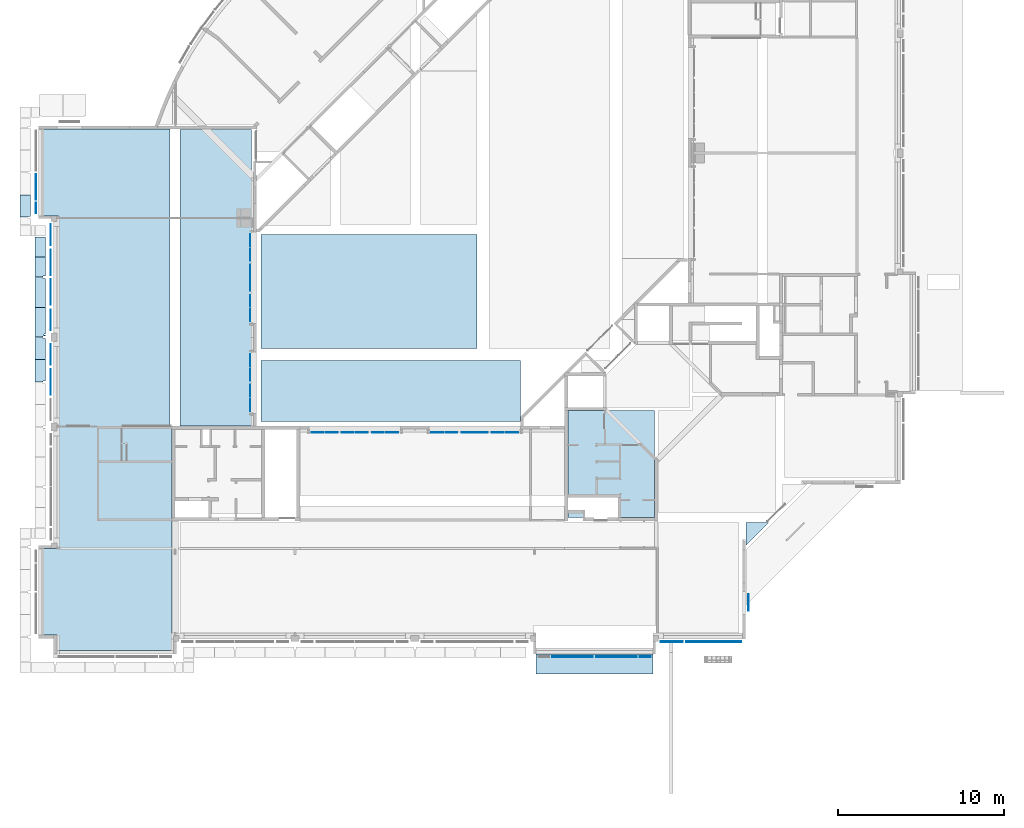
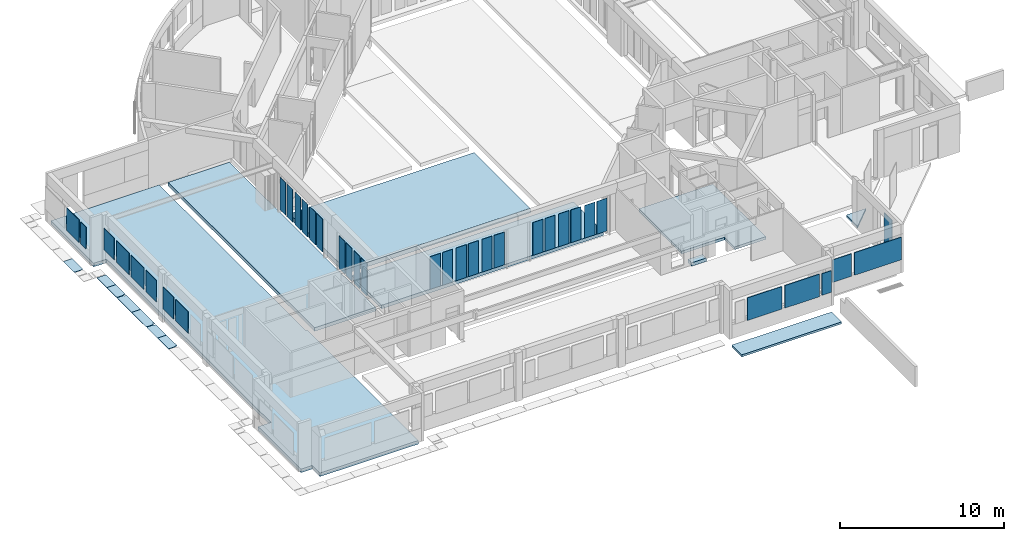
# One storey, part 6 of 30: 36 plates, 15 slabs.
"""IFC4X3_ADD2 building model written with IfcOpenShell, lengths in millimetres."""

from ifc_helpers import new_model, si_unit, direction, frame, frame_2d, origin_with_axes, origin_2d_with_axis, place, context, subcontext, project, spatial, polyline, rectangle, outline, extrude, source, transform, mapped, material, type_object, element, save


model = new_model("IFC4X3_ADD2")

# Units and contexts
model_context = context("Model", 3, precision=1e-05, world=origin_with_axes(), true_north=direction((0.0, 1.0)))
body_context = subcontext(model_context, "Body", "Model", "MODEL_VIEW")
ifc_project = project(units=[si_unit("LENGTHUNIT", "METRE", prefix="MILLI"), si_unit("AREAUNIT", "SQUARE_METRE"), si_unit("VOLUMEUNIT", "CUBIC_METRE"), si_unit("PLANEANGLEUNIT", "RADIAN"), si_unit("TIMEUNIT", "SECOND"), si_unit("MASSUNIT", "GRAM")], contexts=[model_context])

# Site, building, storey
site_placement = place(None, origin_with_axes())
site = spatial("IfcSite", under=ifc_project, at=site_placement, Name="Site", CompositionType="ELEMENT")
building_placement = place(site_placement, origin_with_axes())
building = spatial("IfcBuilding", under=site, at=building_placement, Name="IFC Building Story")
storey_placement = place(building_placement, origin_with_axes())
storey = spatial("IfcBuildingStorey", under=building, at=storey_placement, Name="000", Elevation=0.0)

# Slab
ifc_material_1 = material(Name="BB_Beton_Bestaand")
slab_type_1 = type_object("IfcSlabType", Name="BB_Beton_Bestaand 200", PredefinedType="FLOOR", material=ifc_material_1)
slab_1_placement = place(storey_placement, frame((-19899.99999999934, 13624.99999999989, -280.0), z_axis=(0.0, 0.0, 1.0), x_axis=(0.0, -1.0, 0.0)))
element("IfcSlab", 1, at=slab_1_placement, inside=storey, type_object=slab_type_1, Name="Floor:BB_XX_Vloer uit beton, 200 mm", ObjectType="Floor:BB_XX_Vloer uit beton, 200 mm", PredefinedType="FLOOR", context=body_context, shape_type="SweptSolid", body=[
    extrude(outline(polyline([(2545.000000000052, 270.0000000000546), (1334.999999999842, 270.0000000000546), (1334.999999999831, -2739.999999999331), (-3879.999999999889, -2739.999999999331), (-3879.999999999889, 2469.999999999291), (2545.000000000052, 2469.999999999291), (2545.000000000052, 270.0000000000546)])), frame((3879.999999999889, 2739.999999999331, 0.0), z_axis=(0.0, 0.0, 1.0), x_axis=(1.0, 0.0, 0.0)), (0.0, 0.0, 1.0), 200.0),
])

# Plates
ifc_material_2 = material(Name="BB_Glas")
shared_shape_1 = source(origin_with_axes(), body_context, "Body", "SweptSolid", [
    extrude(rectangle(XDim=1602.000000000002, YDim=652.000000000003, at=frame_2d((0.0, 0.0), x_axis=(0.0, 1.0))), frame((0.0, 0.0, -44.0), z_axis=(0.0, 0.0, 1.0), x_axis=(1.0, 0.0, 0.0)), (0.0, 0.0, 1.0), 44.0),
])
plate_1_placement = place(storey_placement, frame((-15264.0, -1187.50000000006, 1765.0), z_axis=(0.0, -1.0, 0.0), x_axis=(1.0, 0.0, 0.0)))
element("IfcPlate", 2, at=plate_1_placement, inside=storey, material=ifc_material_2, Name="BB_07.06_Buitenbeglazing, rechthoekig_GMO:07.06.72#02_Drievoudige beglazing, 44 mm, A/A*/P4A RC2, -1 en +0", ObjectType="BB_07.06_Buitenbeglazing, rechthoekig_GMO:07.06.72#02_Drievoudige beglazing, 44 mm, A/A*/P4A RC2, -1 en +0", PredefinedType="USERDEFINED", context=body_context, shape_type="MappedRepresentation", body=[
    mapped(shared_shape_1, transform((0.0, 0.0, 0.0))),
])
shared_shape_2 = source(origin_with_axes(), body_context, "Body", "SweptSolid", [
    extrude(rectangle(XDim=2432.0, YDim=1680.000000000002, at=origin_2d_with_axis()), frame((0.0, 0.0, -44.0), z_axis=(0.0, 0.0, 1.0), x_axis=(1.0, 0.0, 0.0)), (0.0, 0.0, 1.0), 44.0),
])
for number, where, z_axis, x_axis in (
    (3, (-19616.0, -1187.50000000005, 1765.0), (0.0, -1.0, 0.0), (1.0, 0.0, 0.0)),
    (4, (-16984.0, -1187.50000000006, 1765.0), (0.0, -1.0, 0.0), (1.0, 0.0, 0.0)),
):
    element("IfcPlate", number, at=place(storey_placement, frame(where, z_axis=z_axis, x_axis=x_axis)), inside=storey, material=ifc_material_2, Name="BB_07.06_Buitenbeglazing, rechthoekig_GMO:07.06.72#02_Drievoudige beglazing, 44 mm, A/A*/P4A RC2, -1 en +0", ObjectType="BB_07.06_Buitenbeglazing, rechthoekig_GMO:07.06.72#02_Drievoudige beglazing, 44 mm, A/A*/P4A RC2, -1 en +0", PredefinedType="USERDEFINED", context=body_context, shape_type="MappedRepresentation", body=[
        mapped(shared_shape_2, transform((0.0, 0.0, 0.0))),
    ])
shared_shape_3 = source(origin_with_axes(), body_context, "Body", "SweptSolid", [
    extrude(rectangle(XDim=1602.000000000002, YDim=652.0000000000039, at=frame_2d((0.0, 0.0), x_axis=(0.0, 1.0))), frame((0.0, 0.0, -44.0), z_axis=(0.0, 0.0, 1.0), x_axis=(1.0, 0.0, 0.0)), (0.0, 0.0, 1.0), 44.0),
])
plate_2_placement = place(storey_placement, frame((-51887.5000000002, 25794.0, 1765.0), z_axis=(-1.0, 0.0, 0.0), x_axis=(0.0, 1.0, 0.0)))
element("IfcPlate", 5, at=plate_2_placement, inside=storey, material=ifc_material_2, Name="BB_07.06_Buitenbeglazing, rechthoekig_GMO:07.06.72#02_Drievoudige beglazing, 44 mm, A/A*/P4A RC2, -1 en +0", ObjectType="BB_07.06_Buitenbeglazing, rechthoekig_GMO:07.06.72#02_Drievoudige beglazing, 44 mm, A/A*/P4A RC2, -1 en +0", PredefinedType="USERDEFINED", context=body_context, shape_type="MappedRepresentation", body=[
    mapped(shared_shape_3, transform((0.0, 0.0, 0.0))),
])
shared_shape_4 = source(origin_with_axes(), body_context, "Body", "SweptSolid", [
    extrude(rectangle(XDim=1680.000000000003, YDim=1532.000000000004, at=frame_2d((0.0, 0.0), x_axis=(0.0, 1.0))), frame((0.0, 0.0, -44.0), z_axis=(0.0, 0.0, 1.0), x_axis=(1.0, 0.0, 0.0)), (0.0, 0.0, 1.0), 44.0),
])
plate_3_placement = place(storey_placement, frame((-51887.5000000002, 27064.0, 1765.0), z_axis=(-1.0, 0.0, 0.0), x_axis=(0.0, 1.0, 0.0)))
element("IfcPlate", 6, at=plate_3_placement, inside=storey, material=ifc_material_2, Name="BB_07.06_Buitenbeglazing, rechthoekig_GMO:07.06.72#02_Drievoudige beglazing, 44 mm, A/A*/P4A RC2, -1 en +0", ObjectType="BB_07.06_Buitenbeglazing, rechthoekig_GMO:07.06.72#02_Drievoudige beglazing, 44 mm, A/A*/P4A RC2, -1 en +0", PredefinedType="USERDEFINED", context=body_context, shape_type="MappedRepresentation", body=[
    mapped(shared_shape_4, transform((0.0, 0.0, 0.0))),
])
shared_shape_5 = source(origin_with_axes(), body_context, "Body", "SweptSolid", [
    extrude(rectangle(XDim=1680.000000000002, YDim=1332.600000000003, at=frame_2d((0.0, 0.0), x_axis=(0.0, 1.0))), frame((0.0, 0.0, -44.0), z_axis=(0.0, 0.0, 1.0), x_axis=(1.0, 0.0, 0.0)), (0.0, 0.0, 1.0), 44.0),
])
plate_4_placement = place(storey_placement, frame((-13663.2000000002, -287.499999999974, 1765.0), z_axis=(0.0, -1.0, 0.0), x_axis=(1.0, 0.0, 0.0)))
element("IfcPlate", 7, at=plate_4_placement, inside=storey, material=ifc_material_2, Name="BB_07.06_Buitenbeglazing, rechthoekig_GMO:07.06.72#02_Drievoudige beglazing, 44 mm, A/A*/P4A RC2, -1 en +0", ObjectType="BB_07.06_Buitenbeglazing, rechthoekig_GMO:07.06.72#02_Drievoudige beglazing, 44 mm, A/A*/P4A RC2, -1 en +0", PredefinedType="USERDEFINED", context=body_context, shape_type="MappedRepresentation", body=[
    mapped(shared_shape_5, transform((0.0, 0.0, 0.0))),
])
shared_shape_6 = source(origin_with_axes(), body_context, "Body", "SweptSolid", [
    extrude(rectangle(XDim=3306.4, YDim=1680.000000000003, at=origin_2d_with_axis()), frame((0.0, 0.0, -44.0), z_axis=(0.0, 0.0, 1.0), x_axis=(1.0, 0.0, 0.0)), (0.0, 0.0, 1.0), 44.0),
])
plate_5_placement = place(storey_placement, frame((-11143.7000000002, -287.499999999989, 1765.0), z_axis=(0.0, -1.0, 0.0), x_axis=(1.0, 0.0, 0.0)))
element("IfcPlate", 8, at=plate_5_placement, inside=storey, material=ifc_material_2, Name="BB_07.06_Buitenbeglazing, rechthoekig_GMO:07.06.72#02_Drievoudige beglazing, 44 mm, A/A*/P4A RC2, -1 en +0", ObjectType="BB_07.06_Buitenbeglazing, rechthoekig_GMO:07.06.72#02_Drievoudige beglazing, 44 mm, A/A*/P4A RC2, -1 en +0", PredefinedType="USERDEFINED", context=body_context, shape_type="MappedRepresentation", body=[
    mapped(shared_shape_6, transform((0.0, 0.0, 0.0))),
])
shared_shape_7 = source(origin_with_axes(), body_context, "Body", "SweptSolid", [
    extrude(rectangle(XDim=1602.000000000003, YDim=1242.000000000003, at=frame_2d((0.0, 0.0), x_axis=(0.0, 1.0))), frame((0.0, 0.0, -28.0), z_axis=(0.0, 0.0, 1.0), x_axis=(1.0, 0.0, 0.0)), (0.0, 0.0, 1.0), 28.0),
])
plate_6_placement = place(storey_placement, frame((-50987.4999999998, 16990.0, 1765.0), z_axis=(-1.0, 0.0, 0.0), x_axis=(0.0, -1.0, 0.0)))
element("IfcPlate", 9, at=plate_6_placement, inside=storey, material=ifc_material_2, Name="BB_07.06_Buitenbeglazing, rechthoekig_GMO:07.06.41#03_Dubbele beglazing RWA +0, 28 mm", ObjectType="BB_07.06_Buitenbeglazing, rechthoekig_GMO:07.06.41#03_Dubbele beglazing RWA +0, 28 mm", PredefinedType="USERDEFINED", context=body_context, shape_type="MappedRepresentation", body=[
    mapped(shared_shape_7, transform((0.0, 0.0, 0.0))),
])
shared_shape_8 = source(origin_with_axes(), body_context, "Body", "SweptSolid", [
    extrude(rectangle(XDim=1602.000000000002, YDim=1522.000000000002, at=frame_2d((0.0, 0.0), x_axis=(0.0, 1.0))), frame((0.0, 0.0, -28.0), z_axis=(0.0, 0.0, 1.0), x_axis=(1.0, 0.0, 0.0)), (0.0, 0.0, 1.0), 28.0),
])
plate_7_placement = place(storey_placement, frame((-50987.4999999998, 15330.0, 1765.0), z_axis=(-1.0, 0.0, 0.0), x_axis=(0.0, -1.0, 0.0)))
element("IfcPlate", 10, at=plate_7_placement, inside=storey, material=ifc_material_2, Name="BB_07.06_Buitenbeglazing, rechthoekig_GMO:07.06.41#03_Dubbele beglazing RWA +0, 28 mm", ObjectType="BB_07.06_Buitenbeglazing, rechthoekig_GMO:07.06.41#03_Dubbele beglazing RWA +0, 28 mm", PredefinedType="USERDEFINED", context=body_context, shape_type="MappedRepresentation", body=[
    mapped(shared_shape_8, transform((0.0, 0.0, 0.0))),
])
shared_shape_9 = source(origin_with_axes(), body_context, "Body", "SweptSolid", [
    extrude(rectangle(XDim=1602.000000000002, YDim=1244.000000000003, at=frame_2d((0.0, 0.0), x_axis=(0.0, 1.0))), frame((0.0, 0.0, -28.0), z_axis=(0.0, 0.0, 1.0), x_axis=(1.0, 0.0, 0.0)), (0.0, 0.0, 1.0), 28.0),
])
for number, where, z_axis, x_axis in (
    (11, (-50987.5000000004, 24190.0, 1765.0), (-1.0, 0.0, 0.0), (0.0, -1.0, 0.0)),
    (12, (-50987.5000000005, 19070.0, 1765.0), (-1.0, 0.0, 0.0), (0.0, -1.0, 0.0)),
):
    element("IfcPlate", number, at=place(storey_placement, frame(where, z_axis=z_axis, x_axis=x_axis)), inside=storey, material=ifc_material_2, Name="BB_07.06_Buitenbeglazing, rechthoekig_GMO:07.06.41#03_Dubbele beglazing RWA +0, 28 mm", ObjectType="BB_07.06_Buitenbeglazing, rechthoekig_GMO:07.06.41#03_Dubbele beglazing RWA +0, 28 mm", PredefinedType="USERDEFINED", context=body_context, shape_type="MappedRepresentation", body=[
        mapped(shared_shape_9, transform((0.0, 0.0, 0.0))),
    ])
shared_shape_10 = source(origin_with_axes(), body_context, "Body", "SweptSolid", [
    extrude(rectangle(XDim=1602.000000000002, YDim=1552.000000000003, at=frame_2d((0.0, 0.0), x_axis=(0.0, 1.0))), frame((0.0, 0.0, -28.0), z_axis=(0.0, 0.0, 1.0), x_axis=(1.0, 0.0, 0.0)), (0.0, 0.0, 1.0), 28.0),
])
for number, where, z_axis, x_axis in (
    (13, (-50987.5000000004, 22515.0, 1765.0), (-1.0, 0.0, 0.0), (0.0, -1.0, 0.0)),
    (14, (-50987.5000000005, 20745.0, 1765.0), (-1.0, 0.0, 0.0), (0.0, -1.0, 0.0)),
):
    element("IfcPlate", number, at=place(storey_placement, frame(where, z_axis=z_axis, x_axis=x_axis)), inside=storey, material=ifc_material_2, Name="BB_07.06_Buitenbeglazing, rechthoekig_GMO:07.06.41#03_Dubbele beglazing RWA +0, 28 mm", ObjectType="BB_07.06_Buitenbeglazing, rechthoekig_GMO:07.06.41#03_Dubbele beglazing RWA +0, 28 mm", PredefinedType="USERDEFINED", context=body_context, shape_type="MappedRepresentation", body=[
        mapped(shared_shape_10, transform((0.0, 0.0, 0.0))),
    ])
ifc_material_3 = material(Name="BB_Metaal_Aluminium_Buitenschrijnwerk")
shared_shape_11 = source(origin_with_axes(), body_context, "Body", "SweptSolid", [
    extrude(rectangle(XDim=2458.0, YDim=994.000000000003, at=frame_2d((0.0, 0.0), x_axis=(0.0, 1.0))), frame((0.0, 0.0, -44.0), z_axis=(0.0, 0.0, 1.0), x_axis=(1.0, 0.0, 0.0)), (0.0, 0.0, 1.0), 44.0),
])
plate_8_placement = place(storey_placement, frame((-9022.50000000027, 2085.0, 1321.0), z_axis=(1.0, 0.0, 0.0), x_axis=(0.0, -1.0, 0.0)))
element("IfcPlate", 15, at=plate_8_placement, inside=storey, material=ifc_material_3, Name="BB_07.06_Buitenbeglazing, rechthoekig_GMO:07.04.63#01_Vulpaneel, 44 mm", ObjectType="BB_07.06_Buitenbeglazing, rechthoekig_GMO:07.04.63#01_Vulpaneel, 44 mm", PredefinedType="USERDEFINED", context=body_context, shape_type="MappedRepresentation", body=[
    mapped(shared_shape_11, transform((0.0, 0.0, 0.0))),
])
shared_shape_12 = source(origin_with_axes(), body_context, "Body", "SweptSolid", [
    extrude(rectangle(XDim=2433.0, YDim=713.500000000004, at=frame_2d((0.0, 0.0), x_axis=(0.0, 1.0))), frame((0.0, 0.0, -17.0), z_axis=(0.0, 0.0, 1.0), x_axis=(1.0, 0.0, 0.0)), (0.0, 0.0, 1.0), 17.0),
])
for number, where, z_axis, x_axis in (
    (16, (-31307.2500000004, 12321.5000000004, 1344.0), (0.0, 1.0, 0.0), (-1.0, 0.0, 0.0)),
    (17, (-30452.7500000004, 12321.5000000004, 1344.0), (0.0, 1.0, 0.0), (-1.0, 0.0, 0.0)),
    (18, (-32272.7500000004, 12321.5000000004, 1344.0), (0.0, 1.0, 0.0), (-1.0, 0.0, 0.0)),
    (19, (-33127.2500000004, 12321.5000000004, 1344.0), (0.0, 1.0, 0.0), (-1.0, 0.0, 0.0)),
    (20, (-34092.7500000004, 12321.5000000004, 1344.0), (0.0, 1.0, 0.0), (-1.0, 0.0, 0.0)),
    (21, (-34947.2500000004, 12321.5000000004, 1344.0), (0.0, 1.0, 0.0), (-1.0, 0.0, 0.0)),
    (22, (-38978.5000000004, 20207.2500000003, 1344.0), (1.0, 0.0, 0.0), (0.0, 1.0, 0.0)),
    (23, (-38978.5000000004, 19352.7500000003, 1344.0), (1.0, 0.0, 0.0), (0.0, 1.0, 0.0)),
    (24, (-38978.5000000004, 21172.7500000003, 1344.0), (1.0, 0.0, 0.0), (0.0, 1.0, 0.0)),
    (25, (-38978.5000000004, 22027.2500000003, 1344.0), (1.0, 0.0, 0.0), (0.0, 1.0, 0.0)),
    (26, (-38978.5000000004, 22992.7500000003, 1344.0), (1.0, 0.0, 0.0), (0.0, 1.0, 0.0)),
    (27, (-38978.5000000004, 23847.2500000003, 1344.0), (1.0, 0.0, 0.0), (0.0, 1.0, 0.0)),
    (28, (-24107.2500000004, 12321.5000000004, 1344.0), (0.0, 1.0, 0.0), (-1.0, 0.0, 0.0)),
    (29, (-23252.7500000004, 12321.5000000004, 1344.0), (0.0, 1.0, 0.0), (-1.0, 0.0, 0.0)),
    (30, (-25072.7500000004, 12321.5000000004, 1344.0), (0.0, 1.0, 0.0), (-1.0, 0.0, 0.0)),
    (31, (-25927.2500000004, 12321.5000000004, 1344.0), (0.0, 1.0, 0.0), (-1.0, 0.0, 0.0)),
    (32, (-26892.7500000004, 12321.5000000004, 1344.0), (0.0, 1.0, 0.0), (-1.0, 0.0, 0.0)),
    (33, (-27747.2500000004, 12321.5000000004, 1344.0), (0.0, 1.0, 0.0), (-1.0, 0.0, 0.0)),
):
    element("IfcPlate", number, at=place(storey_placement, frame(where, z_axis=z_axis, x_axis=x_axis)), inside=storey, material=ifc_material_2, Name="BB_10.10_Binnenbeglazing, rechthoekig_GMO:10.10.32#02_Enkelvoudige beglazing, 2B2, 40dB", ObjectType="BB_10.10_Binnenbeglazing, rechthoekig_GMO:10.10.32#02_Enkelvoudige beglazing, 2B2, 40dB", PredefinedType="USERDEFINED", context=body_context, shape_type="MappedRepresentation", body=[
        mapped(shared_shape_12, transform((0.0, 0.0, 0.0))),
    ])
shared_shape_13 = source(origin_with_axes(), body_context, "Body", "SweptSolid", [
    extrude(rectangle(XDim=2430.0, YDim=718.500000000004, at=frame_2d((0.0, 0.0), x_axis=(0.0, 1.0))), frame((0.0, 0.0, -17.0), z_axis=(0.0, 0.0, 1.0), x_axis=(1.0, 0.0, 0.0)), (0.0, 0.0, 1.0), 17.0),
])
for number, where, z_axis, x_axis in (
    (34, (-38978.5000000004, 14814.7500000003, 1344.0), (1.0, 0.0, 0.0), (0.0, 1.0, 0.0)),
    (35, (-38978.5000000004, 13955.2500000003, 1344.0), (1.0, 0.0, 0.0), (0.0, 1.0, 0.0)),
    (36, (-38978.5000000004, 15785.2500000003, 1344.0), (1.0, 0.0, 0.0), (0.0, 1.0, 0.0)),
    (37, (-38978.5000000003, 16644.7500000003, 1344.0), (1.0, 0.0, 0.0), (0.0, 1.0, 0.0)),
):
    element("IfcPlate", number, at=place(storey_placement, frame(where, z_axis=z_axis, x_axis=x_axis)), inside=storey, material=ifc_material_2, Name="BB_10.10_Binnenbeglazing, rechthoekig_GMO:10.10.32#02_Enkelvoudige beglazing, 2B2, 40dB", ObjectType="BB_10.10_Binnenbeglazing, rechthoekig_GMO:10.10.32#02_Enkelvoudige beglazing, 2B2, 40dB", PredefinedType="USERDEFINED", context=body_context, shape_type="MappedRepresentation", body=[
        mapped(shared_shape_13, transform((0.0, 0.0, 0.0))),
    ])

# Slabs
slab_type_2 = type_object("IfcSlabType", Name="BB_Beton_Bestaand 260", PredefinedType="FLOOR", material=ifc_material_1)
slab_2_placement = place(storey_placement, frame((-38330.00000000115, 12970.00000000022, -660.0), z_axis=(0.0, 0.0, 1.0), x_axis=(1.0, 0.0, 0.0)))
element("IfcSlab", 38, at=slab_2_placement, inside=storey, type_object=slab_type_2, Name="Floor:BB_XX_Vloer uit beton, 260 mm", ObjectType="Floor:BB_XX_Vloer uit beton, 260 mm", PredefinedType="FLOOR", context=body_context, shape_type="SweptSolid", body=[
    extrude(rectangle(XDim=15580.2947297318, YDim=3669.999999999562, at=origin_2d_with_axis()), frame((7790.147364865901, 1834.99999999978, 0.0), z_axis=(0.0, 0.0, 1.0), x_axis=(1.0, 0.0, 0.0)), (0.0, 0.0, 1.0), 260.0),
])
slab_3_placement = place(storey_placement, frame((-43199.99999999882, 30500.00000000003, -460.0), z_axis=(0.0, 0.0, 1.0), x_axis=(0.0, -1.0, 0.0)))
element("IfcSlab", 39, at=slab_3_placement, inside=storey, type_object=slab_type_2, Name="Floor:BB_XX_Vloer uit beton, 260 mm", ObjectType="Floor:BB_XX_Vloer uit beton, 260 mm", PredefinedType="FLOOR", context=body_context, shape_type="SweptSolid", body=[
    extrude(rectangle(XDim=17799.99593411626, YDim=4299.999999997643, at=frame_2d((0.0, 0.0), x_axis=(-1.0, 0.0))), frame((8899.99796705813, 2149.999999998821, 0.0), z_axis=(0.0, 0.0, 1.0), x_axis=(1.0, 0.0, 0.0)), (0.0, 0.0, 1.0), 260.0),
])
slab_4_placement = place(storey_placement, frame((-51405.00000000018, 30540.0000000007, -460.0), z_axis=(0.0, 0.0, 1.0), x_axis=(0.0, -1.0, 0.0)))
element("IfcSlab", 40, at=slab_4_placement, inside=storey, type_object=slab_type_2, Name="Floor:BB_XX_Vloer uit beton, 260 mm", ObjectType="Floor:BB_XX_Vloer uit beton, 260 mm", PredefinedType="FLOOR", context=body_context, shape_type="SweptSolid", body=[
    extrude(outline(polyline([(13008.3340109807, -2035.000000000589), (12078.3340109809, -2035.000000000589), (12078.3340109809, -2834.999999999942), (6868.33401098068, -2834.999999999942), (6868.33401098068, -1934.999999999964), (-13121.6659890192, -1934.999999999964), (-13121.6659890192, -2835.000000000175), (-18336.66598902, -2835.000000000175), (-18336.66598902, 4770.000000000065), (-496.6700549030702, 4770.000000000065), (-496.6700549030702, 4870.00000000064), (13008.3340109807, 4870.00000000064), (13008.3340109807, -2035.000000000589)])), frame((18336.66598902, 2835.000000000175, 0.0), z_axis=(0.0, 0.0, 1.0), x_axis=(1.0, 0.0, 0.0)), (0.0, 0.0, 1.0), 260.0),
])
slab_5_placement = place(storey_placement, frame((-19899.99999999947, 7200.0000000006, -460.0), z_axis=(0.0, 0.0, 1.0), x_axis=(1.0, 0.0, 0.0)))
element("IfcSlab", 41, at=slab_5_placement, inside=storey, type_object=slab_type_2, Name="Floor:BB_XX_Vloer uit beton, 260 mm", ObjectType="Floor:BB_XX_Vloer uit beton, 260 mm", PredefinedType="FLOOR", context=body_context, shape_type="SweptSolid", body=[
    extrude(rectangle(XDim=1039.835920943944, YDim=439.9999999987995, at=origin_2d_with_axis()), frame((519.917960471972, 219.9999999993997, 0.0), z_axis=(0.0, 0.0, 1.0), x_axis=(1.0, 0.0, 0.0)), (0.0, 0.0, 1.0), 260.0),
])
slab_type_3 = type_object("IfcSlabType", Name="BB_Beton_Bestaand 150", PredefinedType="FLOOR", material=ifc_material_1)
slab_6_placement = place(storey_placement, frame((-21804.99999999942, -2205.000000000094, -810.0), z_axis=(0.0, 0.0, 1.0), x_axis=(1.0, 0.0, 0.0)))
element("IfcSlab", 42, at=slab_6_placement, inside=storey, type_object=slab_type_3, Name="Floor:BB_XX_Vloer uit beton, 150 mm", ObjectType="Floor:BB_XX_Vloer uit beton, 150 mm", PredefinedType="FLOOR", context=body_context, shape_type="SweptSolid", body=[
    extrude(rectangle(XDim=7005.000000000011, YDim=1210.000000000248, at=origin_2d_with_axis()), frame((3502.500000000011, 605.0000000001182, 0.0), z_axis=(0.0, 0.0, 1.0), x_axis=(1.0, 0.0, 0.0)), (0.0, 0.0, 1.0), 150.0),
])
slab_7_placement = place(storey_placement, frame((-8524.04545570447, 7590.954544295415, -350.0), z_axis=(0.0, 0.0, 1.0), x_axis=(-0.7071067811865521, -0.707106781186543, 0.0)))
element("IfcSlab", 43, at=slab_7_placement, inside=storey, type_object=slab_type_3, Name="Floor:BB_XX_Vloer uit beton, 150 mm", ObjectType="Floor:BB_XX_Vloer uit beton, 150 mm", PredefinedType="FLOOR", context=body_context, shape_type="SweptSolid", body=[
    extrude(outline(polyline([(-2.728484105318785e-12, -651.4381916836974), (-977.157287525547, 325.7190958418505), (977.1572875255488, 325.7190958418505), (-2.728484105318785e-12, -651.4381916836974)])), frame((977.1572875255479, 651.4381916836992, 0.0), z_axis=(0.0, 0.0, 1.0), x_axis=(1.0, 0.0, 0.0)), (0.0, 0.0, 1.0), 150.0),
])
slab_type_4 = type_object("IfcSlabType", Name="BB_Beton_Bestaand 330", PredefinedType="FLOOR", material=ifc_material_1)
slab_8_placement = place(storey_placement, frame((-38330.00000000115, 17359.99999999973, -730.0), z_axis=(0.0, 0.0, 1.0), x_axis=(1.0, 0.0, 0.0)))
element("IfcSlab", 44, at=slab_8_placement, inside=storey, type_object=slab_type_4, Name="Floor:BB_XX_Vloer welfsels, 330 mm", ObjectType="Floor:BB_XX_Vloer welfsels, 330 mm", PredefinedType="FLOOR", context=body_context, shape_type="SweptSolid", body=[
    extrude(rectangle(XDim=12970.00000000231, YDim=6830.000000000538, at=origin_2d_with_axis()), frame((6485.000000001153, 3415.000000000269, 0.0), z_axis=(0.0, 0.0, 1.0), x_axis=(1.0, 0.0, 0.0)), (0.0, 0.0, 1.0), 330.0),
])
ifc_material_4 = material(Name="Steel, Galvanized - looprooster")
slab_type_5 = type_object("IfcSlabType", Name="Steel, Galvanized - looprooster 30", PredefinedType="FLOOR", material=ifc_material_4)
slab_9_placement = place(storey_placement, frame((-51919.99839785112, 22852.99796376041, -350.0), z_axis=(0.0, 0.0, 1.0), x_axis=(0.0, -1.0, 0.0)))
element("IfcSlab", 45, at=slab_9_placement, inside=storey, type_object=slab_type_5, Name="Floor:GVH - Looprooster 30 mm", ObjectType="Floor:GVH - Looprooster 30 mm", PredefinedType="FLOOR", context=body_context, shape_type="SweptSolid", body=[
    extrude(outline(polyline([(327.9994499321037, -267.5017166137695), (275.9996502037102, -267.5017166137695), (275.9996502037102, -282.4994277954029), (-879.9985500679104, -282.4994277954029), (-879.9985500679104, 347.5005722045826), (275.9994499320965, 347.5005722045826), (275.9994499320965, 202.5005722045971), (327.9994499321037, 202.5005722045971), (327.9994499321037, -267.5017166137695)])), frame((879.9985500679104, 282.4994277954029, 0.0), z_axis=(0.0, 0.0, 1.0), x_axis=(1.0, 0.0, 0.0)), (0.0, 0.0, 1.0), 30.0),
])
slab_10_placement = place(storey_placement, frame((-51919.99839785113, 19829.9979637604, -350.0), z_axis=(0.0, 0.0, 1.0), x_axis=(0.0, -1.0, 0.0)))
element("IfcSlab", 46, at=slab_10_placement, inside=storey, type_object=slab_type_5, Name="Floor:GVH - Looprooster 30 mm", ObjectType="Floor:GVH - Looprooster 30 mm", PredefinedType="FLOOR", context=body_context, shape_type="SweptSolid", body=[
    extrude(outline(polyline([(363.1662999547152, -368.3342997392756), (311.1665002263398, -368.3342997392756), (311.1665002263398, -383.3320109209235), (-1421.831700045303, -383.3320109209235), (-1421.831700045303, 246.667989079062), (178.1662999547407, 246.667989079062), (178.1662999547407, 156.6647847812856), (258.166299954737, 156.6647847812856), (258.166299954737, 246.667989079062), (311.1662999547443, 246.667989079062), (311.1662999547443, 101.6655477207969), (363.1662999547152, 101.6655477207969), (363.1662999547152, -368.3342997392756)])), frame((1421.831700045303, 383.3320109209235, 0.0), z_axis=(0.0, 0.0, 1.0), x_axis=(1.0, 0.0, 0.0)), (0.0, 0.0, 1.0), 30.0),
])
slab_11_placement = place(storey_placement, frame((-51919.99839785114, 16679.99796376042, -350.0), z_axis=(0.0, 0.0, 1.0), x_axis=(0.0, -1.0, 0.0)))
element("IfcSlab", 47, at=slab_11_placement, inside=storey, type_object=slab_type_5, Name="Floor:GVH - Looprooster 30 mm", ObjectType="Floor:GVH - Looprooster 30 mm", PredefinedType="FLOOR", context=body_context, shape_type="SweptSolid", body=[
    extrude(outline(polyline([(368.499500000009, -267.5006947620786), (281.4995000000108, -267.5006947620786), (281.4995000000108, -282.4989546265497), (-966.4985000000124, -282.4989546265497), (-966.4985000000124, 347.5010453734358), (316.4995000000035, 347.5010453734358), (316.4995000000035, 202.498604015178), (368.499500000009, 202.498604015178), (368.499500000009, -267.5006947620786)])), frame((966.4985000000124, 282.4989546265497, 0.0), z_axis=(0.0, 0.0, 1.0), x_axis=(1.0, 0.0, 0.0)), (0.0, 0.0, 1.0), 30.0),
])
slab_12_placement = place(storey_placement, frame((-52819.99839785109, 26578.42729774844, -350.0), z_axis=(0.0, 0.0, 1.0), x_axis=(0.0, -1.0, 0.0)))
element("IfcSlab", 48, at=slab_12_placement, inside=storey, type_object=slab_type_5, Name="Floor:GVH - Looprooster 30 mm", ObjectType="Floor:GVH - Looprooster 30 mm", PredefinedType="FLOOR", context=body_context, shape_type="SweptSolid", body=[
    extrude(outline(polyline([(360.1421164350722, -267.5011650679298), (307.5716506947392, -267.5011650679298), (307.5716506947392, -282.4999850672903), (-975.855883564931, -282.4999850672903), (-975.855883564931, 347.5005750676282), (308.1421164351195, 347.5005750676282), (308.1421164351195, 202.500575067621), (360.1421164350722, 202.500575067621), (360.1421164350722, -267.5011650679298)])), frame((975.855883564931, 282.4999850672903, 0.0), z_axis=(0.0, 0.0, 1.0), x_axis=(1.0, 0.0, 0.0)), (0.0, 0.0, 1.0), 30.0),
])
slab_13_placement = place(storey_placement, frame((-51919.9983978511, 21614.99996376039, -350.0), z_axis=(0.0, 0.0, 1.0), x_axis=(0.0, -1.0, 0.0)))
element("IfcSlab", 49, at=slab_13_placement, inside=storey, type_object=slab_type_5, Name="Floor:GVH - Looprooster 30 mm", ObjectType="Floor:GVH - Looprooster 30 mm", PredefinedType="FLOOR", context=body_context, shape_type="SweptSolid", body=[
    extrude(outline(polyline([(-420.2504499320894, 347.5005722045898), (1312.751550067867, 347.5005722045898), (1312.751550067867, -282.4994277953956), (-420.2506502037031, -282.4994277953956), (-420.2506502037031, -267.501716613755), (-472.250449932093, -267.501716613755), (-472.250449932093, 202.5005722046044), (-420.2504499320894, 202.5005722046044), (-420.2504499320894, 347.5005722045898)])), frame((472.250449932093, 282.4994277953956, 0.0), z_axis=(0.0, 0.0, 1.0), x_axis=(1.0, 0.0, 0.0)), (0.0, 0.0, 1.0), 30.0),
])
slab_14_placement = place(storey_placement, frame((-51919.99839785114, 18014.99596376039, -350.0), z_axis=(0.0, 0.0, 1.0), x_axis=(0.0, -1.0, 0.0)))
element("IfcSlab", 50, at=slab_14_placement, inside=storey, type_object=slab_type_5, Name="Floor:GVH - Looprooster 30 mm", ObjectType="Floor:GVH - Looprooster 30 mm", PredefinedType="FLOOR", context=body_context, shape_type="SweptSolid", body=[
    extrude(outline(polyline([(-307.7484508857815, 347.5010453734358), (975.2495491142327, 347.5010453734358), (975.2495491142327, -282.4989546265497), (-307.752647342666, -282.4989546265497), (-307.752647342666, -267.5006947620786), (-359.7484508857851, -267.5006947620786), (-359.7484508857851, 202.498604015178), (-307.7484508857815, 202.498604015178), (-307.7484508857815, 347.5010453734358)])), frame((359.7484508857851, 282.4989546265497, 0.0), z_axis=(0.0, 0.0, 1.0), x_axis=(1.0, 0.0, 0.0)), (0.0, 0.0, 1.0), 30.0),
])
slab_15_placement = place(storey_placement, frame((-51919.9983978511, 24061.50125884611, -350.0), z_axis=(0.0, 0.0, 1.0), x_axis=(0.0, -1.0, 0.0)))
element("IfcSlab", 51, at=slab_15_placement, inside=storey, type_object=slab_type_5, Name="Floor:GVH - Looprooster 30 mm", ObjectType="Floor:GVH - Looprooster 30 mm", PredefinedType="FLOOR", context=body_context, shape_type="SweptSolid", body=[
    extrude(rectangle(XDim=1207.998000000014, YDim=629.9999999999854, at=frame_2d((0.0, 0.0), x_axis=(-1.0, 0.0))), frame((603.9990000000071, 314.9999999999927, 0.0), z_axis=(0.0, 0.0, 1.0), x_axis=(1.0, 0.0, 0.0)), (0.0, 0.0, 1.0), 30.0),
])

save(model, "model.ifc")
